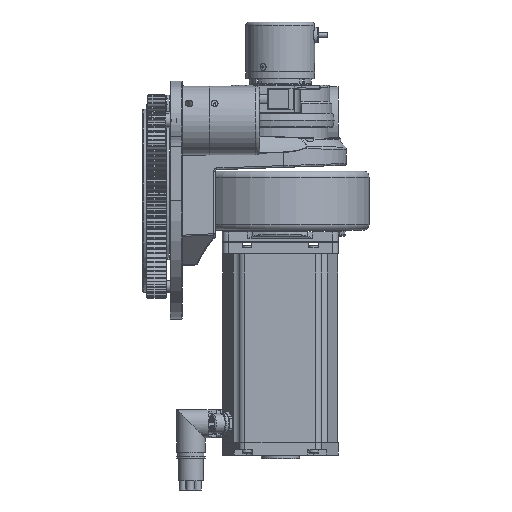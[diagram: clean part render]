
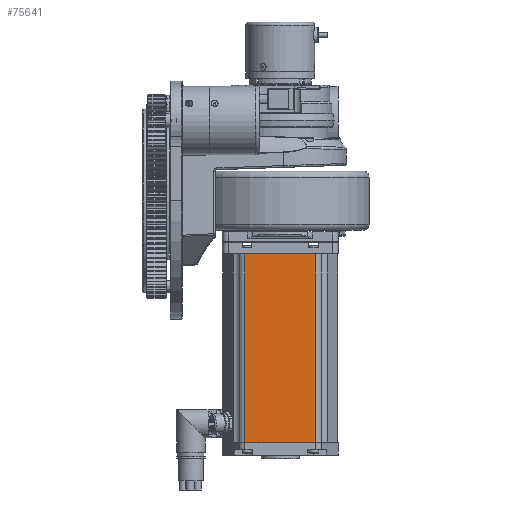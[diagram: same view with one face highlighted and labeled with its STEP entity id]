
A CAD part, left-side view. The second image highlights one B-rep face of the part: STEP entity #75641.
In plain terms, the highlighted planar face has unit normal (-1, 0, 0).
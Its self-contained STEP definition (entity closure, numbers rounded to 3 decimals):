
#1401 = VERTEX_POINT ( 'NONE', #82582 ) ;
#4596 = VECTOR ( 'NONE', #110497, 1000. ) ;
#5282 = PLANE ( 'NONE',  #98991 ) ;
#10578 = DIRECTION ( 'NONE',  ( 0., 0., 1. ) ) ;
#11927 = DIRECTION ( 'NONE',  ( 0., 0., 1. ) ) ;
#14847 = CARTESIAN_POINT ( 'NONE',  ( -97.029, 31.583, 31.203 ) ) ;
#22185 = VERTEX_POINT ( 'NONE', #67715 ) ;
#22866 = VERTEX_POINT ( 'NONE', #110797 ) ;
#23718 = DIRECTION ( 'NONE',  ( -1., 0., 0. ) ) ;
#25930 = VECTOR ( 'NONE', #11927, 1000. ) ;
#29284 = LINE ( 'NONE', #109203, #109474 ) ;
#48479 = FACE_OUTER_BOUND ( 'NONE', #56713, .T. ) ;
#56713 = EDGE_LOOP ( 'NONE', ( #83686, #70013, #57019, #115427 ) ) ;
#57019 = ORIENTED_EDGE ( 'NONE', *, *, #101027, .F. ) ;
#64859 = VECTOR ( 'NONE', #94586, 1000. ) ;
#67715 = CARTESIAN_POINT ( 'NONE',  ( -97.029, 1.583, 190.703 ) ) ;
#68098 = CARTESIAN_POINT ( 'NONE',  ( -97.029, 1.583, 190.703 ) ) ;
#70013 = ORIENTED_EDGE ( 'NONE', *, *, #109745, .T. ) ;
#70821 = CARTESIAN_POINT ( 'NONE',  ( -97.029, 31.583, 190.703 ) ) ;
#75641 = ADVANCED_FACE ( 'NONE', ( #48479 ), #5282, .T. ) ;
#80341 = LINE ( 'NONE', #14847, #64859 ) ;
#82582 = CARTESIAN_POINT ( 'NONE',  ( -97.029, 1.583, 31.203 ) ) ;
#83686 = ORIENTED_EDGE ( 'NONE', *, *, #107146, .T. ) ;
#86224 = DIRECTION ( 'NONE',  ( 0., 0., 1. ) ) ;
#89318 = VERTEX_POINT ( 'NONE', #108790 ) ;
#91659 = CARTESIAN_POINT ( 'NONE',  ( -97.029, 61.583, 190.703 ) ) ;
#94586 = DIRECTION ( 'NONE',  ( 0., -1., 0. ) ) ;
#98991 = AXIS2_PLACEMENT_3D ( 'NONE', #68098, #23718, #86224 ) ;
#100181 = LINE ( 'NONE', #70821, #4596 ) ;
#101027 = EDGE_CURVE ( 'NONE', #22866, #89318, #113107, .T. ) ;
#107146 = EDGE_CURVE ( 'NONE', #1401, #22185, #29284, .T. ) ;
#108790 = CARTESIAN_POINT ( 'NONE',  ( -97.029, 61.583, 190.703 ) ) ;
#109203 = CARTESIAN_POINT ( 'NONE',  ( -97.029, 1.583, 190.703 ) ) ;
#109474 = VECTOR ( 'NONE', #10578, 1000. ) ;
#109745 = EDGE_CURVE ( 'NONE', #22185, #89318, #100181, .T. ) ;
#110497 = DIRECTION ( 'NONE',  ( 0., 1., 0. ) ) ;
#110797 = CARTESIAN_POINT ( 'NONE',  ( -97.029, 61.583, 31.203 ) ) ;
#113107 = LINE ( 'NONE', #91659, #25930 ) ;
#115427 = ORIENTED_EDGE ( 'NONE', *, *, #116519, .T. ) ;
#116519 = EDGE_CURVE ( 'NONE', #22866, #1401, #80341, .T. ) ;
